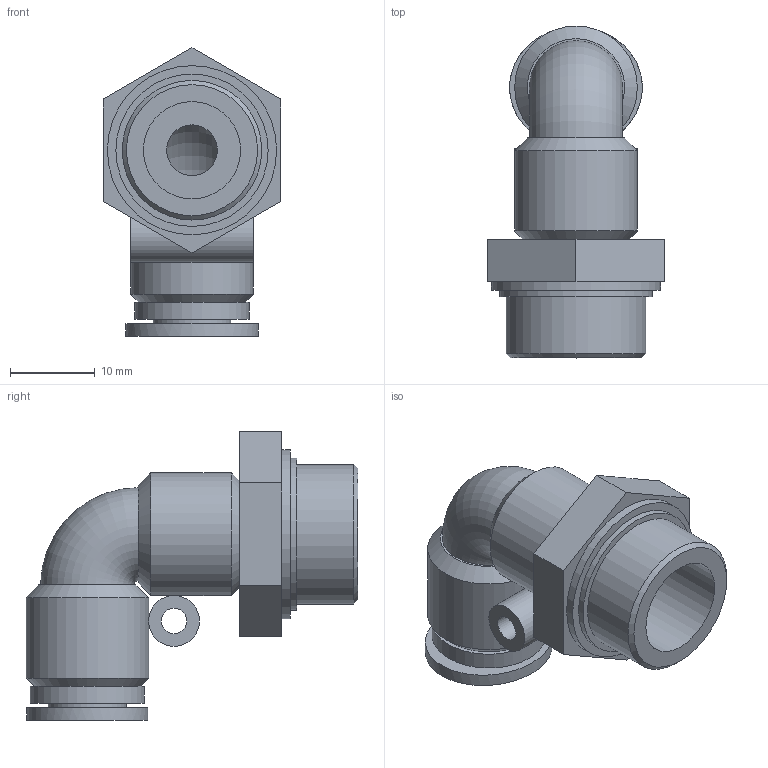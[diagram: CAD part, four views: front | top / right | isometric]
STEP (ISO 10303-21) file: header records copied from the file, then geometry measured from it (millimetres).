
FILE_DESCRIPTION(/* description */ (''),/* implementation_level */ '2;1');
FILE_NAME(/* name */ 'K:\Złączki\125\125.038\125.038-8\125.038-8.stp',/* time_stamp */ '2014-09-02T09:55:56+02:00',/* author */ ('Praktykant1'),/* organization */ (''),/* preprocessor_version */ 'ST-DEVELOPER v15.6',/* originating_system */ 'Autodesk Inventor 2015',/* authorisation */ '');
FILE_SCHEMA (('AUTOMOTIVE_DESIGN { 1 0 10303 214 3 1 1 }'));
Length unit declared in the file: millimetre
Products named in the file (6): 00-01 Obudowa; 00-02 Mocowanie; 00-03 Pierscień mocujący; 00-04 Łącznik; 00-05 O-ring; 00-00 125.038-8
Bounding box: 21 x 39.25 x 34.12 mm (x, y, z)
Volume: 6045.9 mm3; surface area: 6965.2 mm2
Topology: 6 solids, 6 shells, 54 faces, 98 edges, 65 vertices
Faces by surface type: plane 27, cylinder 19, cone 5, torus 2, bspline 1
Full cylindrical faces by diameter (mm): 3 x1, 6 x2, 7.5 x1, 8.2 x1, 9.2 x2, 9.4 x2, 11.5 x1, 13.5 x1, 14.5 x2, 15.5 x2, 16.5 x1, 18 x2, 20 x1
Entity records: 1357 total; most frequent: DIRECTION 244, CARTESIAN_POINT 212, ORIENTED_EDGE 136, AXIS2_PLACEMENT_3D 113, EDGE_LOOP 101, EDGE_CURVE 68, VERTEX_POINT 61, FACE_OUTER_BOUND 54
